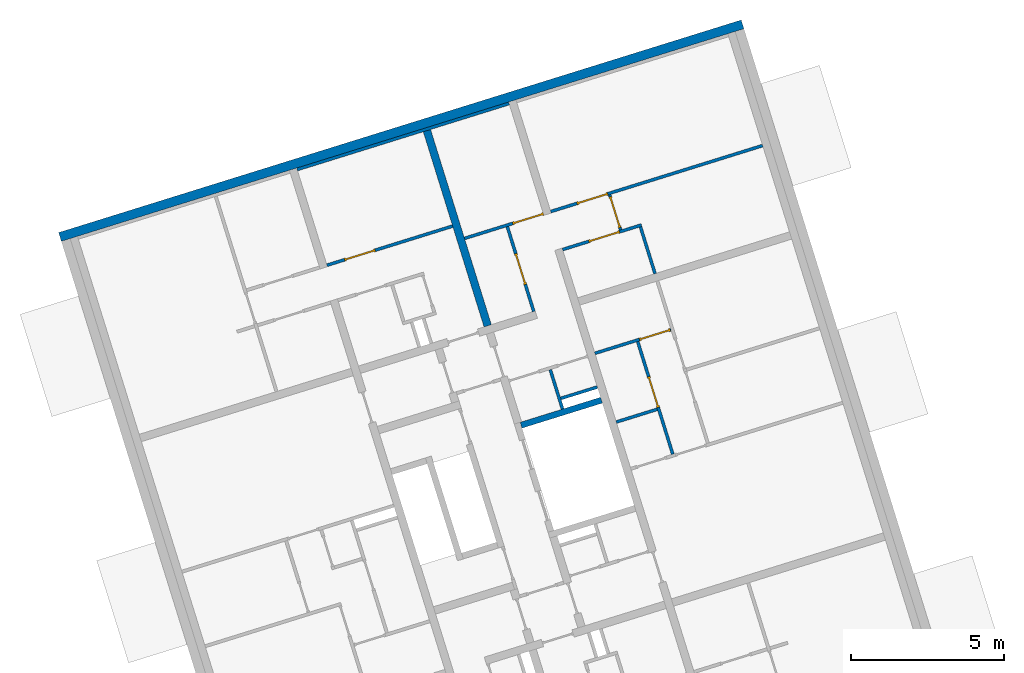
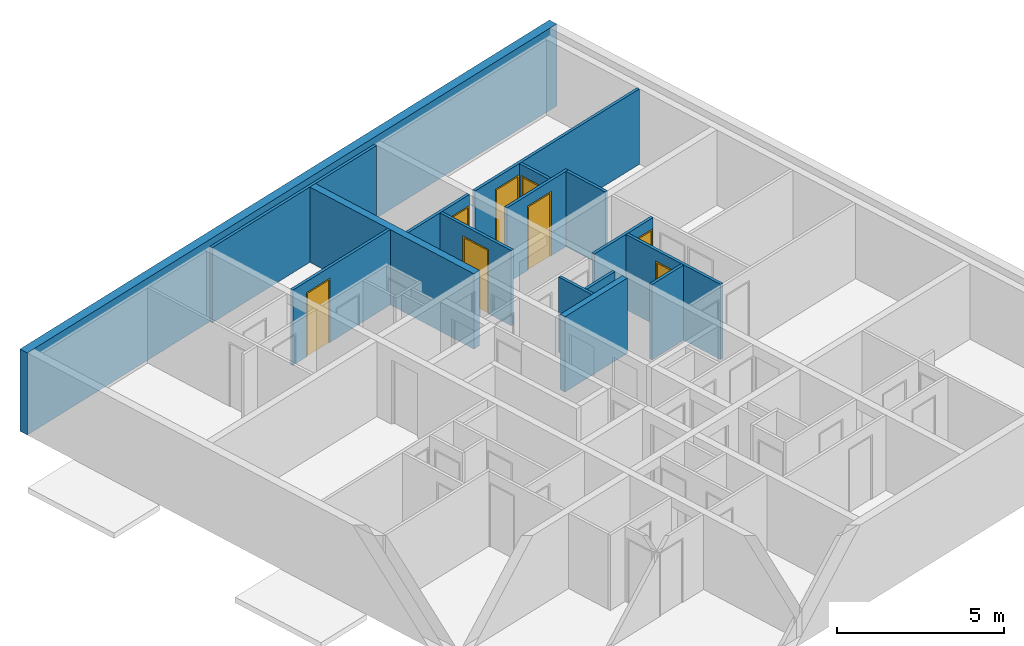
# One storey, part 6 of 9: 16 walls, 8 doors, 9 openings.
"""IFC4 building model written with IfcOpenShell, lengths in metres."""

from ifc_helpers import new_model, entity, si_unit, converted_unit, direction, frame, origin, place, context, subcontext, project, spatial, indexed_curve, outline, extrude, polygons, source, transform, mapped, material, constituent, constituent_set, type_object, type_shapes, element, fill, save


model = new_model("IFC4")

# Units and contexts
model_context = context("Model", 3, precision=1e-05, world=origin(), true_north=direction((6.12323399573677e-17, 1.0)))
body_context = subcontext(model_context, "Body", "Model", "MODEL_VIEW")
ifc_project = project(units=[si_unit("LENGTHUNIT", "METRE"), si_unit("AREAUNIT", "SQUARE_METRE"), converted_unit("PLANEANGLEUNIT", "DEGREE", entity("IfcPlaneAngleMeasure", 0.0174532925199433), si_unit("PLANEANGLEUNIT", "RADIAN"), dimensions=[0, 0, 0, 0, 0, 0, 0]), si_unit("VOLUMEUNIT", "CUBIC_METRE")], contexts=[model_context])

# Site, building, storey
site_placement = place(None, frame((13.1347999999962, 11.9886000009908, 0.0), z_axis=(0.0, 0.0, 1.0), x_axis=(0.954770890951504, 0.297342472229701, 0.0)))
site = spatial("IfcSite", under=ifc_project, at=site_placement, Name="Schiehaven", CompositionType="ELEMENT")
building_placement = place(site_placement, origin())
building = spatial("IfcBuilding", under=site, at=building_placement, Name="VORM huis", CompositionType="ELEMENT")
storey_placement = place(building_placement, frame((0.0, 0.0, 24.9)))
storey = spatial("IfcBuildingStorey", under=building, at=storey_placement, Name="08 achtste verdieping", CompositionType="ELEMENT", Elevation=24.9)

# Walls
ifc_material_1 = material(Name="ntb_ntb_ntb", Category="Miscellaneous")
wall_type_1 = type_object("IfcWallType", Name="Basic Wall:21_WA_gevel_binnenspouwwand 100mm_gen", PredefinedType="STANDARD")
wall_1_placement = place(storey_placement, frame((65.1250000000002, 29.0499999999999, 0.0)))
element("IfcWall", 1, at=wall_1_placement, inside=storey, type_object=wall_type_1, material=ifc_material_1, Name="Binnenspouwblad", ObjectType="Wand", PredefinedType="NOTDEFINED", context=body_context, shape_type="SweptSolid", body=[
    extrude(outline(indexed_curve([(7.24999999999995, 0.0500000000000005), (-1.71284880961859e-16, 0.0500000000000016), (1.71284880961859e-16, -0.0500000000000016), (7.24999999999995, -0.0500000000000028), (7.24999999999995, 0.0500000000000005)], self_intersect=False)), origin(), (0.0, 0.0, 1.0), 2.75),
])
wall_type_2 = type_object("IfcWallType", Name="Basic Wall: 300mm_gen", PredefinedType="STANDARD")
wall_2_placement = place(storey_placement, frame((80.4249999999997, 29.2499999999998, 0.0), z_axis=(0.0, 0.0, 1.0), x_axis=(-1.0, 0.0, 0.0)))
element("IfcWall", 2, at=wall_2_placement, inside=storey, type_object=wall_type_2, material=ifc_material_1, Name="Gevelwand", ObjectType="Wand", PredefinedType="NOTDEFINED", context=body_context, shape_type="SweptSolid", body=[
    extrude(outline(indexed_curve([(23.35, 0.15), (1.7850939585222e-15, 0.150000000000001), (-1.7850939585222e-15, -0.150000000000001), (23.35, -0.150000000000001), (23.35, 0.15)], self_intersect=False)), origin(), (0.0, 0.0, 1.0), 3.0),
])
ifc_material_2 = material(Name="beton_gewapend_prefab-element", Category="Miscellaneous")
wall_type_3 = type_object("IfcWallType", Name="Basic Wall:28_WA_skelet_wand 200mm_gen", PredefinedType="STANDARD")
wall_3_placement = place(storey_placement, frame((69.6249999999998, 18.8999999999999, 0.0)))
element("IfcWall", 3, at=wall_3_placement, inside=storey, type_object=wall_type_3, material=ifc_material_2, Name="Constructieve wand", ObjectType="Wand", PredefinedType="NOTDEFINED", context=body_context, shape_type="SweptSolid", body=[
    extrude(outline(indexed_curve([(2.75000000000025, 0.100000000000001), (-1.53322085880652e-16, 0.100000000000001), (1.53322085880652e-16, -0.100000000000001), (2.75000000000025, -0.100000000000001), (2.75000000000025, 0.100000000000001)], self_intersect=False)), origin(), (0.0, 0.0, 1.0), 2.75),
])
wall_type_4 = type_object("IfcWallType", Name="Basic Wall:22_WA_afbouw_binnenwand 250mm_gen", PredefinedType="STANDARD")
wall_4_placement = place(storey_placement, frame((69.5499999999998, 22.3249999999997, 0.0), z_axis=(0.0, 0.0, 1.0), x_axis=(0.0, 1.0, 0.0)))
element("IfcWall", 4, at=wall_4_placement, inside=storey, type_object=wall_type_4, material=ifc_material_1, Name="Binnenwand", ObjectType="Wand", PredefinedType="NOTDEFINED", context=body_context, shape_type="SweptSolid", body=[
    extrude(outline(indexed_curve([(6.67500000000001, 0.125000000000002), (1.8578365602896e-15, 0.124999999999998), (-1.8578365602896e-15, -0.124999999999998), (6.67500000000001, -0.124999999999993), (6.67500000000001, 0.125000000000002)], self_intersect=False)), origin(), (0.0, 0.0, 1.0), 2.75),
])

# Wall, opening, door
wall_type_5 = type_object("IfcWallType", Name="Basic Wall:22_WA_afbouw_binnenwand 100mm_gen", PredefinedType="STANDARD")
wall_5_placement = place(storey_placement, frame((65.1249999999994, 25.7750000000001, 0.0)))
wall_5 = element("IfcWall", 5, at=wall_5_placement, inside=storey, type_object=wall_type_5, material=ifc_material_1, Name="Binnenwand", ObjectType="Wand", PredefinedType="NOTDEFINED", context=body_context, shape_type="Tessellation", body=[
    polygons([(2.98139225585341e-15, -0.0499999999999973, 0.0), (0.600000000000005, -0.049999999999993, 0.0), (0.600000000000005, -0.049999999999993, 2.34999999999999), (1.65000000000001, -0.0499999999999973, 2.34999999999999), (1.65000000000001, -0.0499999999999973, 0.0), (4.30000000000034, -0.0499999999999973, 0.0), (4.30000000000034, -0.0499999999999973, 2.75), (2.98139225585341e-15, -0.0499999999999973, 2.75), (0.600000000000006, 0.050000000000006, 2.34999999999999), (0.600000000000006, 0.050000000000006, 0.0), (4.07058711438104e-15, 0.0500000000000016, 0.0), (4.07058711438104e-15, 0.0500000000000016, 2.75), (4.30000000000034, 0.0500000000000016, 2.75), (4.30000000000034, 0.0500000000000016, 0.0), (1.65000000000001, 0.0500000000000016, 0.0), (1.65000000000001, 0.0500000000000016, 2.34999999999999)], [[[1, 2, 3, 4, 5, 6, 7, 8]], [[9, 10, 11, 12, 13, 14, 15, 16]], [[11, 10, 2, 1]], [[7, 6, 14, 13]], [[8, 7, 13, 12]], [[1, 8, 12, 11]], [[5, 4, 16, 15]], [[3, 2, 10, 9]], [[4, 3, 9, 16]], [[15, 14, 6, 5]]], closed=True),
])
opening_1_placement = place(wall_5_placement, frame((1.65000000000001, 0.0500000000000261, 0.0)))
opening_1 = element("IfcOpeningElement", 6, at=opening_1_placement, cuts=wall_5, Name="Binnendeur", PredefinedType="OPENING", context=body_context, shape_type="SweptSolid", body=[
    extrude(outline(indexed_curve([(2.34999999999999, 3.02234910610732e-29), (2.34999999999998, 1.05), (0.0, 1.05), (2.16573425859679e-15, 3.02234910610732e-29), (2.34999999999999, 3.02234910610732e-29)], self_intersect=False)), frame((0.0, 0.0, 0.0), z_axis=(0.0, -1.0, 0.0), x_axis=(0.0, 0.0, 1.0)), (0.0, 0.0, 1.0), 0.1),
])
ifc_material_3 = material(Name="PD_a_binnenwandopeningen", Category="Miscellaneous")
ifc_constituent_1 = constituent(ifc_material_3, Name="PD_a_binnenwandopeningen", Category="Miscellaneous")
ifc_material_4 = material(Name="metaal_aluminium_ntb", Category="Miscellaneous")
ifc_constituent_2 = constituent(ifc_material_4, Name="metaal_aluminium_ntb", Category="Miscellaneous")
ifc_constituent_set_1 = constituent_set(constituents=[ifc_constituent_1, ifc_constituent_2])
ifc_constituent_3 = constituent(ifc_material_3, Name="PD_a_binnenwandopeningen", Category="Miscellaneous")
ifc_constituent_4 = constituent(ifc_material_4, Name="Panel", Category="Miscellaneous")
ifc_constituent_set_2 = constituent_set(constituents=[ifc_constituent_3, ifc_constituent_4])
door_type_1 = type_object("IfcDoorType", Name="32_DO_binnendeur enkel:binnendeur", OperationType="REVOLVING", PredefinedType="DOOR", material=ifc_constituent_set_2)
shared_shape_1 = source(origin(), body_context, "Body", "SweptSolid", [
    extrude(outline(indexed_curve([(0.475, -1.16249999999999), (0.525, -1.16249999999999), (0.525, 1.18749999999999), (-0.525, 1.18749999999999), (-0.525, -1.16249999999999), (-0.475, -1.16249999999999), (-0.475, 1.13749999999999), (0.475, 1.13749999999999), (0.475, -1.16249999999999)], self_intersect=False)), frame((0.525000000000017, 0.100000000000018, 1.16249999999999), z_axis=(0.0, -1.0, 0.0), x_axis=(1.0, 0.0, 0.0)), (0.0, 0.0, 1.0), 0.1),
    extrude(outline(indexed_curve([(-0.475, -0.025), (0.475, -0.025), (0.475, 0.025), (-0.475, 0.025), (-0.475, -0.025)], self_intersect=False)), frame((0.525000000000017, 0.0499999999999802, 0.0)), (0.0, 0.0, 1.0), 2.29999999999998),
])
type_shapes(door_type_1, [shared_shape_1])
door_1_placement = place(opening_1_placement, frame((0.0, 0.0, 0.0), z_axis=(0.0, 0.0, 1.0), x_axis=(-1.0, 0.0, 0.0)))
door_1 = element("IfcDoor", 7, at=door_1_placement, inside=storey, type_object=door_type_1, material=ifc_constituent_set_1, Name="Binnendeur", ObjectType="Deur", OperationType="REVOLVING", OverallHeight=2.34999999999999, OverallWidth=1.05, PredefinedType="DOOR", context=body_context, shape_type="MappedRepresentation", body=[
    mapped(shared_shape_1, transform((0.0, 0.0, 0.0), scale=1.0)),
])
fill(opening_1, door_1)

wall_6_placement = place(storey_placement, frame((75.3249999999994, 23.9750000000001, 0.0), z_axis=(0.0, 0.0, 1.0), x_axis=(-1.0, 0.0, 0.0)))
wall_6 = element("IfcWall", 8, at=wall_6_placement, inside=storey, type_object=wall_type_5, material=ifc_material_1, Name="Binnenwand", ObjectType="Wand", PredefinedType="NOTDEFINED", context=body_context, shape_type="Tessellation", body=[
    polygons([(3.61017714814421e-15, -0.0499999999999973, 0.0), (0.650000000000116, -0.0499999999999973, 0.0), (0.750000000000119, -0.0499999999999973, 0.0), (0.750000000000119, -0.0499999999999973, 2.34999999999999), (1.80000000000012, -0.0500000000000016, 2.34999999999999), (1.80000000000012, -0.0500000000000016, 0.0), (2.69999999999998, -0.0500000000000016, 0.0), (2.69999999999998, -0.0500000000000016, 2.75), (0.750000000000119, -0.0499999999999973, 2.75), (0.650000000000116, -0.0499999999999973, 2.75), (3.61017714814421e-15, -0.0499999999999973, 2.75), (0.750000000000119, 0.0500000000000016, 2.34999999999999), (0.750000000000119, 0.0500000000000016, 0.0), (0.100000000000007, 0.0500000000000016, 0.0), (3.48697636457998e-15, 0.0500000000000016, 0.0), (3.48697636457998e-15, 0.0500000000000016, 2.75), (0.100000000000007, 0.0500000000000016, 2.75), (2.69999999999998, 0.0499999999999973, 2.75), (2.69999999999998, 0.0499999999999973, 0.0), (1.80000000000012, 0.0499999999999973, 0.0), (1.80000000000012, 0.0499999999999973, 2.34999999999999)], [[[1, 2, 3, 4, 5, 6, 7, 8, 9, 10, 11]], [[12, 13, 14, 15, 16, 17, 18, 19, 20, 21]], [[15, 14, 13, 3, 2, 1]], [[8, 7, 19, 18]], [[11, 10, 9, 8, 18, 17, 16]], [[6, 5, 21, 20]], [[4, 3, 13, 12]], [[5, 4, 12, 21]], [[1, 11, 16, 15]], [[20, 19, 7, 6]]], closed=True),
])
opening_2_placement = place(wall_6_placement, frame((1.80000000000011, 0.0499999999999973, 0.0)))
opening_2 = element("IfcOpeningElement", 9, at=opening_2_placement, cuts=wall_6, Name="Binnendeur", PredefinedType="OPENING", context=body_context, shape_type="SweptSolid", body=[
    extrude(outline(indexed_curve([(2.34999999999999, 0.0), (2.34999999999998, 1.05), (0.0, 1.05), (2.16573425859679e-15, 0.0), (2.34999999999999, 0.0)], self_intersect=False)), frame((0.0, 0.0, 0.0), z_axis=(0.0, -1.0, 0.0), x_axis=(0.0, 0.0, 1.0)), (0.0, 0.0, 1.0), 0.1),
])
ifc_constituent_5 = constituent(ifc_material_3, Name="PD_a_binnenwandopeningen", Category="Miscellaneous")
ifc_constituent_6 = constituent(ifc_material_4, Name="metaal_aluminium_ntb", Category="Miscellaneous")
ifc_constituent_set_3 = constituent_set(constituents=[ifc_constituent_5, ifc_constituent_6])
door_2_placement = place(opening_2_placement, frame((0.0, 0.0, 0.0), z_axis=(0.0, 0.0, 1.0), x_axis=(-1.0, 0.0, 0.0)))
door_2 = element("IfcDoor", 10, at=door_2_placement, inside=storey, type_object=door_type_1, material=ifc_constituent_set_3, Name="Binnendeur", ObjectType="Deur", OperationType="REVOLVING", OverallHeight=2.34999999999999, OverallWidth=1.05, PredefinedType="DOOR", context=body_context, shape_type="MappedRepresentation", body=[
    mapped(shared_shape_1, transform((0.0, 0.0, 0.0), scale=1.0)),
])
fill(opening_2, door_2)

wall_7_placement = place(storey_placement, frame((79.8749999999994, 25.2750000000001, 0.0), z_axis=(0.0, 0.0, 1.0), x_axis=(-1.0, 0.0, 0.0)))
wall_7 = element("IfcWall", 11, at=wall_7_placement, inside=storey, type_object=wall_type_5, material=ifc_material_1, Name="Binnenwand", ObjectType="Wand", PredefinedType="NOTDEFINED", context=body_context, shape_type="Tessellation", body=[
    polygons([(6.35000000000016, -0.0499999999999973, 2.34999999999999), (6.35000000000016, -0.0499999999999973, 0.0), (7.25000000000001, -0.0499999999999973, 0.0), (7.25000000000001, -0.0499999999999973, 2.75), (-3.45114969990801e-15, -0.0499999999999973, 2.75), (-3.45114969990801e-15, -0.0499999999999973, 0.0), (5.30000000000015, -0.049999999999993, 0.0), (5.30000000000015, -0.049999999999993, 2.34999999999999), (7.25000000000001, 0.0500000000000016, 0.0), (6.35000000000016, 0.0500000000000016, 0.0), (6.35000000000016, 0.0500000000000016, 2.34999999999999), (5.30000000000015, 0.050000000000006, 2.34999999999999), (5.30000000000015, 0.050000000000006, 0.0), (5.20000000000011, 0.050000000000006, 0.0), (-3.57435048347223e-15, 0.0500000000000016, 0.0), (-3.57435048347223e-15, 0.0500000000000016, 2.75), (5.20000000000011, 0.050000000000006, 2.75), (5.30000000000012, 0.050000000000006, 2.75), (7.25000000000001, 0.0500000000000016, 2.75)], [[[1, 2, 3, 4, 5, 6, 7, 8]], [[9, 10, 11, 12, 13, 14, 15, 16, 17, 18, 19]], [[7, 6, 15, 14, 13]], [[4, 3, 9, 19]], [[5, 4, 19, 18, 17, 16]], [[6, 5, 16, 15]], [[13, 12, 8, 7]], [[11, 10, 2, 1]], [[12, 11, 1, 8]], [[3, 2, 10, 9]]], closed=True),
])
opening_3_placement = place(wall_7_placement, frame((5.30000000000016, -0.0500000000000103, 0.0)))
opening_3 = element("IfcOpeningElement", 12, at=opening_3_placement, cuts=wall_7, Name="Binnendeur", PredefinedType="OPENING", context=body_context, shape_type="SweptSolid", body=[
    extrude(outline(indexed_curve([(2.34999999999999, 0.0), (2.34999999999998, 1.05), (0.0, 1.05), (2.16573425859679e-15, 0.0), (2.34999999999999, 0.0)], self_intersect=False)), frame((0.0, 0.0, 0.0), z_axis=(0.0, 1.0, 0.0), x_axis=(0.0, 0.0, 1.0)), (0.0, 0.0, 1.0), 0.1),
])
ifc_constituent_7 = constituent(ifc_material_3, Name="PD_a_binnenwandopeningen", Category="Miscellaneous")
ifc_constituent_8 = constituent(ifc_material_4, Name="metaal_aluminium_ntb", Category="Miscellaneous")
ifc_constituent_set_4 = constituent_set(constituents=[ifc_constituent_7, ifc_constituent_8])
door_3_placement = place(opening_3_placement, origin())
door_3 = element("IfcDoor", 13, at=door_3_placement, inside=storey, type_object=door_type_1, material=ifc_constituent_set_4, Name="Binnendeur", ObjectType="Deur", OperationType="REVOLVING", OverallHeight=2.34999999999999, OverallWidth=1.05, PredefinedType="DOOR", context=body_context, shape_type="MappedRepresentation", body=[
    mapped(shared_shape_1, transform((0.0, 0.0, 0.0), scale=1.0)),
])
fill(opening_3, door_3)

# Wall
wall_8_placement = place(storey_placement, frame((75.2749999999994, 23.9250000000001, 0.0), z_axis=(0.0, 0.0, 1.0), x_axis=(0.0, -1.0, 0.0)))
element("IfcWall", 14, at=wall_8_placement, inside=storey, type_object=wall_type_5, material=ifc_material_1, Name="Binnenwand", ObjectType="Wand", PredefinedType="NOTDEFINED", context=body_context, shape_type="SweptSolid", body=[
    extrude(outline(indexed_curve([(1.6000000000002, 0.0499999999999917), (-9.45814329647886e-17, 0.0499999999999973), (9.45814329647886e-17, -0.0499999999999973), (1.6000000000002, -0.0500000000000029), (1.6000000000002, 0.0499999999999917)], self_intersect=False)), origin(), (0.0, 0.0, 1.0), 2.75),
])

# Wall, openings, door
wall_9_placement = place(storey_placement, frame((74.6249999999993, 24.0250000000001, 0.0), z_axis=(0.0, 0.0, 1.0), x_axis=(0.0, 1.0, 0.0)))
wall_9 = element("IfcWall", 15, at=wall_9_placement, inside=storey, type_object=wall_type_5, material=ifc_material_1, Name="Binnenwand", ObjectType="Wand", PredefinedType="NOTDEFINED", context=body_context, shape_type="Tessellation", body=[
    polygons([(1.2, -0.0500000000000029, 2.75), (4.33146851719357e-15, -0.0500000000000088, 2.75), (4.33146851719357e-15, -0.0500000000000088, 0.0), (0.0799999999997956, -0.0500000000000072, 0.0), (0.0799999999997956, -0.0500000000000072, 2.34999999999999), (1.1299999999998, -0.0500000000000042, 2.34999999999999), (1.1299999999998, -0.0500000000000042, 0.0), (1.2, -0.0500000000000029, 0.0), (0.0, 0.0499999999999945, 2.75), (1.19999999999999, 0.0499999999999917, 2.75), (1.19999999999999, 0.0500000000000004, 2.34999999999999), (1.19999999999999, 0.0499999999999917, 0.0), (1.1299999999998, 0.0499999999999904, 0.0), (1.1299999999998, 0.0500000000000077, 2.34999999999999), (0.0799999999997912, 0.049999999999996, 2.34999999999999), (0.0799999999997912, 0.049999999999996, 0.0), (0.0, 0.0499999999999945, 0.0), (0.0, 0.0499999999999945, 2.34999999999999)], [[[1, 2, 3, 4, 5, 6, 7, 8]], [[9, 10, 11, 12, 13, 14, 15, 16, 17, 18]], [[3, 17, 16, 4]], [[2, 1, 10, 9]], [[1, 8, 12, 11, 10]], [[3, 2, 9, 18, 17]], [[6, 14, 13, 7]], [[14, 6, 5, 15]], [[15, 5, 4, 16]], [[12, 8, 7, 13]]], closed=True),
])
opening_4_placement = place(wall_9_placement, frame((0.0799999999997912, -0.050000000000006, 0.0)))
opening_4 = element("IfcOpeningElement", 16, at=opening_4_placement, cuts=wall_9, Name="Binnendeur", PredefinedType="OPENING", context=body_context, shape_type="SweptSolid", body=[
    extrude(outline(indexed_curve([(2.34999999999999, 1.05), (0.0, 1.05), (0.0, 0.0), (2.34999999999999, 0.0), (2.34999999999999, 1.05)], self_intersect=False)), frame((0.0, 0.0, 0.0), z_axis=(0.0, 1.0, 0.0), x_axis=(0.0, 0.0, 1.0)), (0.0, 0.0, 1.0), 0.1),
])
opening_5_placement = place(wall_9_placement, frame((-24.0250000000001, 74.6249999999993, 0.0), z_axis=(0.0, 0.0, 1.0), x_axis=(0.0, -1.0, 0.0)))
element("IfcOpeningElement", 17, at=opening_5_placement, cuts=wall_9, Name="Binnendeur", PredefinedType="OPENING", context=body_context, shape_type="SweptSolid", body=[
    extrude(outline(indexed_curve([(-1.17499999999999, -0.524999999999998), (1.17499999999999, -0.525000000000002), (1.17499999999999, 0.525000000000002), (-1.17499999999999, 0.525000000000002), (-1.17499999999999, -0.524999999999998)], self_intersect=False)), frame((76.1989999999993, 24.6299999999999, 1.17499999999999), z_axis=(-1.0, 0.0, 0.0), x_axis=(0.0, 0.0, -1.0)), (0.0, 0.0, 1.0), 3.048),
])
ifc_constituent_9 = constituent(ifc_material_3, Name="PD_a_binnenwandopeningen", Category="Miscellaneous")
ifc_constituent_10 = constituent(ifc_material_4, Name="metaal_aluminium_ntb", Category="Miscellaneous")
ifc_constituent_set_5 = constituent_set(constituents=[ifc_constituent_9, ifc_constituent_10])
ifc_constituent_11 = constituent(ifc_material_3, Name="PD_a_binnenwandopeningen", Category="Miscellaneous")
ifc_constituent_12 = constituent(ifc_material_4, Name="Panel", Category="Miscellaneous")
ifc_constituent_set_6 = constituent_set(constituents=[ifc_constituent_11, ifc_constituent_12])
door_type_2 = type_object("IfcDoorType", Name="32_DO_binnendeur enkel:binnendeur", OperationType="REVOLVING", PredefinedType="DOOR", material=ifc_constituent_set_6)
shared_shape_2 = source(origin(), body_context, "Body", "SweptSolid", [
    extrude(outline(indexed_curve([(-1.16249999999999, -0.525000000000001), (1.18749999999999, -0.525), (1.18749999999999, 0.525), (-1.16249999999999, 0.525), (-1.16249999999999, 0.475), (1.13749999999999, 0.475), (1.13749999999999, -0.475), (-1.16249999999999, -0.475), (-1.16249999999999, -0.525000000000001)], self_intersect=False)), frame((0.525000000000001, 0.0, 1.16249999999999), z_axis=(0.0, 1.0, 0.0), x_axis=(0.0, 0.0, 1.0)), (0.0, 0.0, 1.0), 0.1),
    extrude(outline(indexed_curve([(-0.025, -0.475), (0.025, -0.475), (0.025, 0.475), (-0.025, 0.475), (-0.025, -0.475)], self_intersect=False)), frame((0.525000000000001, 0.0499999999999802, 0.0), z_axis=(0.0, 0.0, 1.0), x_axis=(0.0, 1.0, 0.0)), (0.0, 0.0, 1.0), 2.29999999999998),
])
type_shapes(door_type_2, [shared_shape_2])
door_4_placement = place(opening_4_placement, origin())
door_4 = element("IfcDoor", 18, at=door_4_placement, inside=storey, type_object=door_type_2, material=ifc_constituent_set_5, Name="Binnendeur", ObjectType="Deur", OperationType="REVOLVING", OverallHeight=2.34999999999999, OverallWidth=1.05, PredefinedType="DOOR", context=body_context, shape_type="MappedRepresentation", body=[
    mapped(shared_shape_2, transform((0.0, 0.0, 0.0), scale=1.0)),
])
fill(opening_4, door_4)

# Wall, opening, door
wall_10_placement = place(storey_placement, frame((69.6749999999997, 25.2750000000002, 0.0)))
wall_10 = element("IfcWall", 19, at=wall_10_placement, inside=storey, type_object=wall_type_5, material=ifc_material_1, Name="Binnenwand", ObjectType="Wand", PredefinedType="NOTDEFINED", context=body_context, shape_type="Tessellation", body=[
    polygons([(2.69999999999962, -0.0499999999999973, 2.75), (1.49999999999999, -0.0499999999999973, 2.75), (1.39999999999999, -0.0499999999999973, 2.75), (-3.65176134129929e-15, -0.0499999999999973, 2.75), (-3.65176134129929e-15, -0.0499999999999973, 0.0), (1.39999999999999, -0.0499999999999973, 0.0), (1.49999999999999, -0.0499999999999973, 0.0), (1.64999999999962, -0.0499999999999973, 0.0), (1.64999999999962, -0.0499999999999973, 2.34999999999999), (2.69999999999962, -0.0499999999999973, 2.34999999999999), (-3.70058076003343e-15, 0.0500000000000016, 2.75), (2.69999999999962, 0.0500000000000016, 2.75), (2.69999999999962, 0.0500000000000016, 2.34999999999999), (1.64999999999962, 0.0500000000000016, 2.34999999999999), (1.64999999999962, 0.0500000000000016, 0.0), (-3.70058076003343e-15, 0.0500000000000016, 0.0)], [[[1, 2, 3, 4, 5, 6, 7, 8, 9, 10]], [[11, 12, 13, 14, 15, 16]], [[5, 16, 15, 8, 7, 6]], [[12, 1, 10, 13]], [[4, 3, 2, 1, 12, 11]], [[5, 4, 11, 16]], [[14, 9, 8, 15]], [[9, 14, 13, 10]]], closed=True),
])
opening_6_placement = place(wall_10_placement, frame((2.69999999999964, 0.0500000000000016, 0.0)))
opening_6 = element("IfcOpeningElement", 20, at=opening_6_placement, cuts=wall_10, Name="Binnendeur", PredefinedType="OPENING", context=body_context, shape_type="SweptSolid", body=[
    extrude(outline(indexed_curve([(2.34999999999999, 0.0), (2.34999999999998, 1.05), (0.0, 1.05), (2.16573425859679e-15, 0.0), (2.34999999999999, 0.0)], self_intersect=False)), frame((0.0, 0.0, 0.0), z_axis=(0.0, -1.0, 0.0), x_axis=(0.0, 0.0, 1.0)), (0.0, 0.0, 1.0), 0.1),
])
ifc_constituent_13 = constituent(ifc_material_3, Name="PD_a_binnenwandopeningen", Category="Miscellaneous")
ifc_constituent_14 = constituent(ifc_material_4, Name="metaal_aluminium_ntb", Category="Miscellaneous")
ifc_constituent_set_7 = constituent_set(constituents=[ifc_constituent_13, ifc_constituent_14])
door_5_placement = place(opening_6_placement, frame((0.0, 0.0, 0.0), z_axis=(0.0, 0.0, 1.0), x_axis=(-1.0, 0.0, 0.0)))
door_5 = element("IfcDoor", 21, at=door_5_placement, inside=storey, type_object=door_type_1, material=ifc_constituent_set_7, Name="Binnendeur", ObjectType="Deur", OperationType="REVOLVING", OverallHeight=2.34999999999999, OverallWidth=1.05, PredefinedType="DOOR", context=body_context, shape_type="MappedRepresentation", body=[
    mapped(shared_shape_1, transform((0.0, 0.0, 0.0), scale=1.0)),
])
fill(opening_6, door_5)

# Walls
wall_11_placement = place(storey_placement, frame((71.0749999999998, 19.0, 0.0), z_axis=(0.0, 0.0, 1.0), x_axis=(0.0, 1.0, 0.0)))
element("IfcWall", 22, at=wall_11_placement, inside=storey, type_object=wall_type_5, material=ifc_material_1, Name="Binnenwand", ObjectType="Wand", PredefinedType="NOTDEFINED", context=body_context, shape_type="SweptSolid", body=[
    extrude(outline(indexed_curve([(1.34999999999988, 0.0500000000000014), (-1.5153854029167e-16, 0.0499999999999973), (1.5153854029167e-16, -0.0499999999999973), (1.34999999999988, -0.0499999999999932), (1.34999999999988, 0.0500000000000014)], self_intersect=False)), origin(), (0.0, 0.0, 1.0), 2.75),
])
wall_12_placement = place(storey_placement, frame((72.3749999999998, 19.3499999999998, 0.0), z_axis=(0.0, 0.0, 1.0), x_axis=(-1.0, 0.0, 0.0)))
element("IfcWall", 23, at=wall_12_placement, inside=storey, type_object=wall_type_5, material=ifc_material_1, Name="Binnenwand", ObjectType="Wand", PredefinedType="NOTDEFINED", context=body_context, shape_type="SweptSolid", body=[
    extrude(outline(indexed_curve([(1.24999999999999, 0.050000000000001), (-1.10091953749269e-15, 0.0499999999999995), (1.10091953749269e-15, -0.0499999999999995), (1.24999999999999, -0.0499999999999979), (1.24999999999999, 0.050000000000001)], self_intersect=False)), origin(), (0.0, 0.0, 1.0), 2.75),
])

# Wall, opening, door
wall_13_placement = place(storey_placement, frame((71.1249999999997, 22.3249999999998, 0.0), z_axis=(0.0, 0.0, 1.0), x_axis=(0.0, 1.0, 0.0)))
wall_13 = element("IfcWall", 24, at=wall_13_placement, inside=storey, type_object=wall_type_5, material=ifc_material_1, Name="Binnenwand", ObjectType="Wand", PredefinedType="NOTDEFINED", context=body_context, shape_type="Tessellation", body=[
    polygons([(0.0, -0.0499999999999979, 0.0), (0.925000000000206, -0.050000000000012, 0.0), (0.925000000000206, -0.050000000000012, 2.34999999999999), (1.97500000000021, -0.0500000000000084, 2.34999999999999), (1.97500000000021, -0.0500000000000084, 0.0), (2.90000000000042, -0.0500000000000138, 0.0), (2.90000000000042, -0.0500000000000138, 2.75), (0.0, -0.0499999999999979, 2.75), (0.925000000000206, 0.0499999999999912, 2.34999999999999), (0.925000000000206, 0.0499999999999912, 0.0), (0.0, 0.0499999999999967, 0.0), (0.0, 0.0499999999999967, 2.75), (2.90000000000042, 0.0499999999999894, 2.75), (2.90000000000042, 0.0499999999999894, 0.0), (1.97500000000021, 0.0499999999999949, 0.0), (1.97500000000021, 0.0499999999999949, 2.34999999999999)], [[[1, 2, 3, 4, 5, 6, 7, 8]], [[9, 10, 11, 12, 13, 14, 15, 16]], [[11, 10, 2, 1]], [[8, 7, 13, 12]], [[1, 8, 12, 11]], [[5, 4, 16, 15]], [[3, 2, 10, 9]], [[4, 3, 9, 16]], [[7, 6, 14, 13]], [[15, 14, 6, 5]]], closed=True),
])
opening_7_placement = place(wall_13_placement, frame((1.97500000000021, 0.04999999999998, 0.0)))
opening_7 = element("IfcOpeningElement", 25, at=opening_7_placement, cuts=wall_13, Name="Binnendeur", PredefinedType="OPENING", context=body_context, shape_type="SweptSolid", body=[
    extrude(outline(indexed_curve([(2.34999999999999, 0.0), (2.34999999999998, 1.05), (0.0, 1.05), (2.16573425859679e-15, 0.0), (2.34999999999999, 0.0)], self_intersect=False)), frame((0.0, 0.0, 0.0), z_axis=(0.0, -1.0, 0.0), x_axis=(0.0, 0.0, 1.0)), (0.0, 0.0, 1.0), 0.1),
])
ifc_constituent_15 = constituent(ifc_material_3, Name="PD_a_binnenwandopeningen", Category="Miscellaneous")
ifc_constituent_16 = constituent(ifc_material_4, Name="metaal_aluminium_ntb", Category="Miscellaneous")
ifc_constituent_set_8 = constituent_set(constituents=[ifc_constituent_15, ifc_constituent_16])
door_6_placement = place(opening_7_placement, frame((0.0, 0.0, 0.0), z_axis=(0.0, 0.0, 1.0), x_axis=(-1.0, 0.0, 0.0)))
door_6 = element("IfcDoor", 26, at=door_6_placement, inside=storey, type_object=door_type_1, material=ifc_constituent_set_8, Name="Binnendeur", ObjectType="Deur", OperationType="REVOLVING", OverallHeight=2.34999999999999, OverallWidth=1.05, PredefinedType="DOOR", context=body_context, shape_type="MappedRepresentation", body=[
    mapped(shared_shape_1, transform((0.0, 0.0, 0.0), scale=1.0)),
])
fill(opening_7, door_6)

wall_14_placement = place(storey_placement, frame((75.2249999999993, 20.4249999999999, 0.0), z_axis=(0.0, 0.0, 1.0), x_axis=(-1.0, 0.0, 0.0)))
wall_14 = element("IfcWall", 27, at=wall_14_placement, inside=storey, type_object=wall_type_5, material=ifc_material_1, Name="Binnenwand", ObjectType="Wand", PredefinedType="NOTDEFINED", context=body_context, shape_type="Tessellation", body=[
    polygons([(1.07500000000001, -0.0499999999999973, 2.34999999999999), (1.07500000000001, -0.0499999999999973, 0.0), (2.59999999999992, -0.0499999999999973, 0.0), (2.59999999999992, -0.0499999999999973, 2.75), (2.8035561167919e-15, -0.0499999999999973, 2.75), (2.8035561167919e-15, -0.0499999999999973, 0.0), (0.0250000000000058, -0.0499999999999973, 0.0), (0.0250000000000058, -0.0499999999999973, 2.34999999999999), (2.59999999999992, 0.0500000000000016, 0.0), (1.20000000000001, 0.0500000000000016, 0.0), (1.1, 0.0500000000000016, 0.0), (1.07500000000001, 0.0500000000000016, 0.0), (1.07500000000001, 0.0500000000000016, 2.34999999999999), (0.0250000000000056, 0.0500000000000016, 2.34999999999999), (0.0250000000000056, 0.0500000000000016, 0.0), (2.57831440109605e-15, 0.0500000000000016, 0.0), (2.57831440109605e-15, 0.0500000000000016, 2.75), (1.1, 0.0500000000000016, 2.75), (1.20000000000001, 0.0500000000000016, 2.75), (2.59999999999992, 0.0500000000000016, 2.75)], [[[1, 2, 3, 4, 5, 6, 7, 8]], [[9, 10, 11, 12, 13, 14, 15, 16, 17, 18, 19, 20]], [[7, 6, 16, 15]], [[4, 3, 9, 20]], [[5, 4, 20, 19, 18, 17]], [[6, 5, 17, 16]], [[15, 14, 8, 7]], [[13, 12, 2, 1]], [[14, 13, 1, 8]], [[3, 2, 12, 11, 10, 9]]], closed=True),
])
opening_8_placement = place(wall_14_placement, frame((0.025000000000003, -0.0500000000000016, 0.0)))
opening_8 = element("IfcOpeningElement", 28, at=opening_8_placement, cuts=wall_14, Name="Binnendeur", PredefinedType="OPENING", context=body_context, shape_type="SweptSolid", body=[
    extrude(outline(indexed_curve([(2.34999999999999, -1.90552226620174e-32), (2.34999999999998, 1.05), (0.0, 1.05), (2.16573425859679e-15, -1.90552226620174e-32), (2.34999999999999, -1.90552226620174e-32)], self_intersect=False)), frame((0.0, 0.0, 0.0), z_axis=(0.0, 1.0, 0.0), x_axis=(0.0, 0.0, 1.0)), (0.0, 0.0, 1.0), 0.1),
])
ifc_constituent_17 = constituent(ifc_material_3, Name="PD_a_binnenwandopeningen", Category="Miscellaneous")
ifc_constituent_18 = constituent(ifc_material_4, Name="metaal_aluminium_ntb", Category="Miscellaneous")
ifc_constituent_set_9 = constituent_set(constituents=[ifc_constituent_17, ifc_constituent_18])
door_7_placement = place(opening_8_placement, origin())
door_7 = element("IfcDoor", 29, at=door_7_placement, inside=storey, type_object=door_type_1, material=ifc_constituent_set_9, Name="Binnendeur", ObjectType="Deur", OperationType="REVOLVING", OverallHeight=2.34999999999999, OverallWidth=1.05, PredefinedType="DOOR", context=body_context, shape_type="MappedRepresentation", body=[
    mapped(shared_shape_1, transform((0.0, 0.0, 0.0), scale=1.0)),
])
fill(opening_8, door_7)

wall_15_placement = place(storey_placement, frame((74.0749999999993, 20.375, 0.0), z_axis=(0.0, 0.0, 1.0), x_axis=(0.0, -1.0, 0.0)))
wall_15 = element("IfcWall", 30, at=wall_15_placement, inside=storey, type_object=wall_type_5, material=ifc_material_1, Name="Binnenwand", ObjectType="Wand", PredefinedType="NOTDEFINED", context=body_context, shape_type="Tessellation", body=[
    polygons([(2.25000000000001, -0.0500000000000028, 2.34999999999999), (2.25000000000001, -0.0500000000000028, 0.0), (2.35000000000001, -0.0500000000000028, 0.0), (3.85000000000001, -0.0500000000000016, 0.0), (3.85000000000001, -0.0500000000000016, 2.75), (2.35000000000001, -0.0500000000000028, 2.75), (2.25000000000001, -0.0500000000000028, 2.75), (0.0, -0.0500000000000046, 2.75), (0.0, -0.0500000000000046, 0.0), (1.20000000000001, -0.0500000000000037, 0.0), (1.20000000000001, -0.0500000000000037, 2.34999999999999), (3.85000000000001, 0.0500000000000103, 0.0), (2.25000000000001, 0.0500000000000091, 0.0), (2.25000000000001, 0.0500000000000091, 2.34999999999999), (1.20000000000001, 0.0500000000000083, 2.34999999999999), (1.20000000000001, 0.0500000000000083, 0.0), (0.0, 0.0500000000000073, 0.0), (4.33146851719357e-15, 0.0500000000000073, 2.75), (3.85000000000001, 0.0500000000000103, 2.75)], [[[1, 2, 3, 4, 5, 6, 7, 8, 9, 10, 11]], [[12, 13, 14, 15, 16, 17, 18, 19]], [[10, 9, 17, 16]], [[8, 7, 6, 5, 19, 18]], [[9, 8, 18, 17]], [[5, 4, 12, 19]], [[16, 15, 11, 10]], [[14, 13, 2, 1]], [[15, 14, 1, 11]], [[4, 3, 2, 13, 12]]], closed=True),
])
opening_9_placement = place(wall_15_placement, frame((1.20000000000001, -0.0499999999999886, 0.0)))
opening_9 = element("IfcOpeningElement", 31, at=opening_9_placement, cuts=wall_15, Name="Binnendeur", PredefinedType="OPENING", context=body_context, shape_type="SweptSolid", body=[
    extrude(outline(indexed_curve([(2.34999999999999, 1.35358391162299e-15), (2.34999999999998, 1.05), (0.0, 1.05), (2.16573425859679e-15, 1.35358391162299e-15), (2.34999999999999, 1.35358391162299e-15)], self_intersect=False)), frame((0.0, 0.0, 0.0), z_axis=(0.0, 1.0, 0.0), x_axis=(0.0, 0.0, 1.0)), (0.0, 0.0, 1.0), 0.1),
])
ifc_constituent_19 = constituent(ifc_material_3, Name="PD_a_binnenwandopeningen", Category="Miscellaneous")
ifc_constituent_20 = constituent(ifc_material_4, Name="metaal_aluminium_ntb", Category="Miscellaneous")
ifc_constituent_set_10 = constituent_set(constituents=[ifc_constituent_19, ifc_constituent_20])
door_8_placement = place(opening_9_placement, origin())
door_8 = element("IfcDoor", 32, at=door_8_placement, inside=storey, type_object=door_type_1, material=ifc_constituent_set_10, Name="Binnendeur", ObjectType="Deur", OperationType="REVOLVING", OverallHeight=2.34999999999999, OverallWidth=1.05, PredefinedType="DOOR", context=body_context, shape_type="MappedRepresentation", body=[
    mapped(shared_shape_1, transform((0.0, 0.0, 0.0), scale=1.0)),
])
fill(opening_9, door_8)

# Wall
wall_16_placement = place(storey_placement, frame((72.6228357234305, 18.0749999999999, 0.0)))
element("IfcWall", 33, at=wall_16_placement, inside=storey, type_object=wall_type_5, material=ifc_material_1, Name="Binnenwand", ObjectType="Wand", PredefinedType="NOTDEFINED", context=body_context, shape_type="SweptSolid", body=[
    extrude(outline(indexed_curve([(1.40216427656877, 0.0499999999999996), (1.4909356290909e-16, 0.0499999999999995), (-1.4909356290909e-16, -0.0499999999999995), (1.40216427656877, -0.0499999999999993), (1.40216427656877, 0.0499999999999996)], self_intersect=False)), origin(), (0.0, 0.0, 1.0), 2.75),
])

save(model, "model.ifc")
